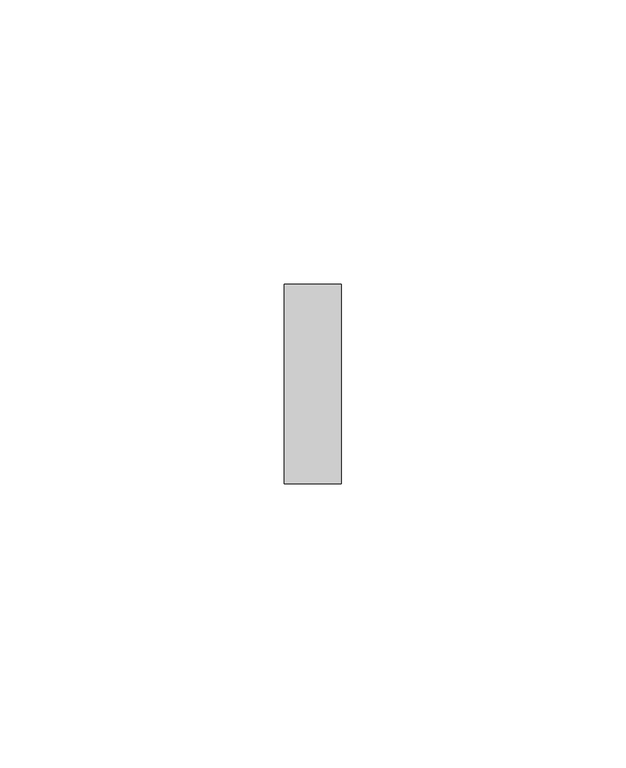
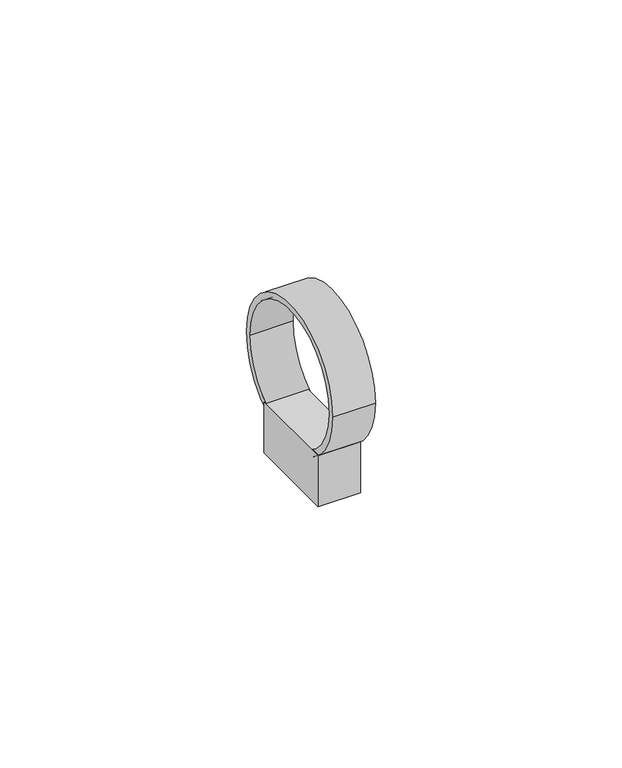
"""IFC4 building model written with IfcOpenShell, lengths in millimetres: cable carrier fitting geometry, Хомутный держатель со стяжкой CFF1 16-32 мм IEK : Хомутный держатель со стяжкой CFF1 16-32 мм IEK."""

from ifc_helpers import new_model, si_unit, point, frame, origin, origin_2d, place, context, project, spatial, polyline, circle_curve, trimmed, segment, composite_curve, outline, extrude, source, transform, mapped, element, save


def cable_carrier_fitting_9ad766fa(model_context):
    return source(origin(), model_context, "Body", "SweptSolid", [
        extrude(outline(polyline([(5.0, 10.4195258), (5.0, -11.5240345), (-5.0, -11.5240345), (-5.0, 10.4195258), (5.0, 10.4195258)])), frame((0.0, 0.0, -25.78125), z_axis=(0.0, 0.0, 1.0), x_axis=(1.0, 0.0, 0.0)), (0.0, 0.0, 1.0), 12.6113362),
        extrude(outline(composite_curve([segment(trimmed(circle_curve(origin_2d(), 17.5), [point((-17.5, 0.0))], [point((17.5, 0.0))], False, "CARTESIAN"), True, "CONTINUOUS"), segment(trimmed(circle_curve(origin_2d(), 17.5), [point((17.5, 0.0))], [point((-17.5, 0.0))], False, "CARTESIAN"), True, "CONTINUOUS")], self_intersect=False), holes=[composite_curve([segment(trimmed(circle_curve(origin_2d(), 16.0), [point((-16.0, 0.0))], [point((16.0, 0.0))], True, "CARTESIAN"), True, "CONTINUOUS"), segment(trimmed(circle_curve(origin_2d(), 16.0), [point((16.0, 0.0))], [point((-16.0, 0.0))], True, "CARTESIAN"), True, "CONTINUOUS")], self_intersect=False)]), frame((-5.0, 0.0, 0.0), z_axis=(1.0, 0.0, 0.0), x_axis=(0.0, 1.0, 0.0)), (0.0, 0.0, 1.0), 10.0),
    ])


if __name__ == "__main__":
    model = new_model("IFC4")
    model_context = context("Model", 3, world=origin())
    ifc_project = project(units=[si_unit("LENGTHUNIT", "METRE", prefix="MILLI")], contexts=[model_context])
    site = spatial("IfcSite", under=ifc_project)
    building = spatial("IfcBuilding", under=site)
    placement = place(None, origin())
    cable_carrier_fitting_shape = cable_carrier_fitting_9ad766fa(model_context)
    element("IfcCableCarrierFitting", 1, ObjectType="Хомутный держатель со стяжкой CFF1 16-32 мм IEK : Хомутный держатель со стяжкой CFF1 16-32 мм IEK", at=placement, inside=building, context=model_context, shape_type="MappedRepresentation", body=[
        mapped(cable_carrier_fitting_shape, transform((0.0, 0.0, 0.0), x_axis=(1.0, 0.0, 0.0), y_axis=(0.0, 1.0, 0.0), z_axis=(0.0, 0.0, 1.0))),
    ])
    save(model, "model.ifc")
